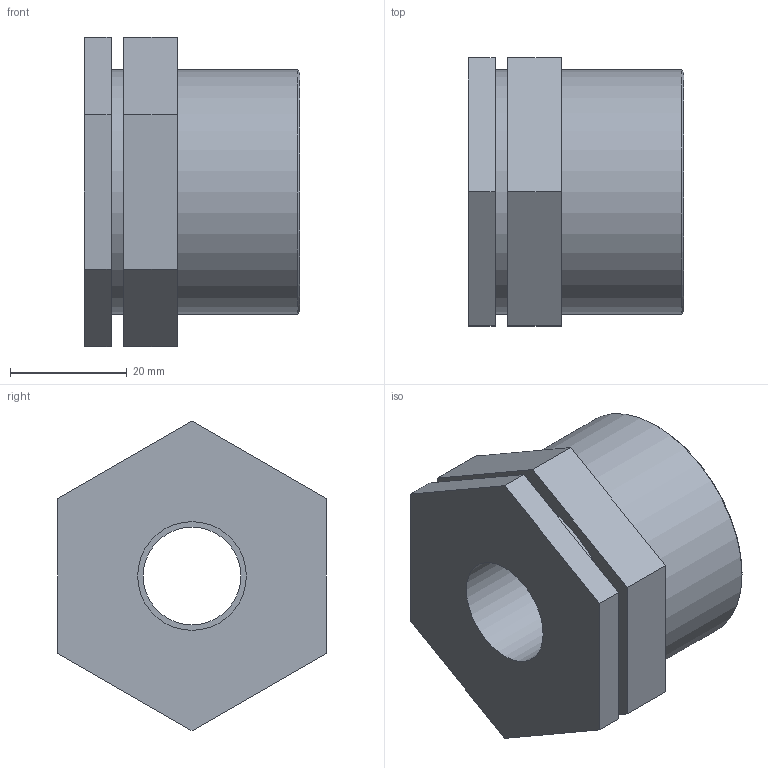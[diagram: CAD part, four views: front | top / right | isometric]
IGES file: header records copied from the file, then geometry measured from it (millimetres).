
Global section: file name: 050207013005_0502070130050A.ipt; native system: Autodesk Inventor 2015; preprocessor: unknown; author: KIM; date: 20170618.093115; units: millimetre
Bounding box: 37 x 46 x 53.12 mm (x, y, z)
Volume: 27296.6 mm3; surface area: 13613.2 mm2
Topology: 1 solids, 1 shells, 28 faces, 66 edges, 46 vertices
Faces by surface type: plane 20, revolution 4, cylinder 3, cone 1
Full cylindrical faces by diameter (mm): 22.357 x1, 41.91 x2
